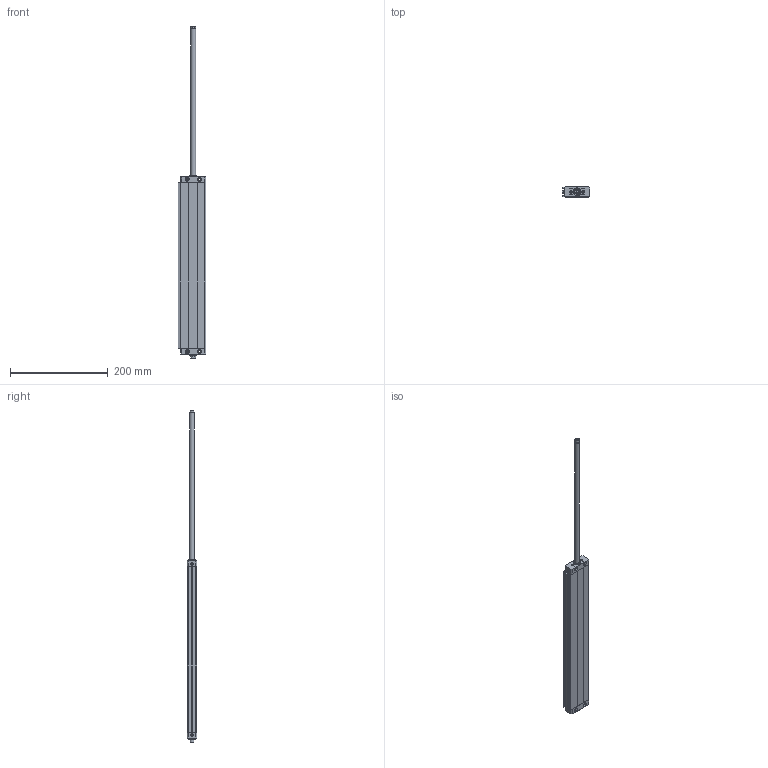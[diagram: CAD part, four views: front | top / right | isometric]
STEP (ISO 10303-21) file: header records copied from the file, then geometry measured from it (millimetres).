
FILE_DESCRIPTION((''),'2;1');
FILE_NAME('I:\Area Tecnica\Disegni\VARIE-3D\Componenti\1370 - CPO\1370_##_0000_03\1370_25_0300_03-01.iam.step','2010-12-16T10:53:53',(''),(''),'Autodesk Inventor 2011','Autodesk Inventor 2011','');
FILE_SCHEMA(('AUTOMOTIVE_DESIGN { 1 0 10303 214 1 1 1 1 }'));
Length unit declared in the file: millimetre
Products named in the file (5): 1370_25_0300_03-01; 1370_05_25_0000; 1370_06_25_0300; 1370_08_25_0000; 1370_3_25_0300
Assembly tree (4 placements, depth 2):
  1370_25_0300_03-01
    1370_05_25_0000
    1370_06_25_0300
    1370_08_25_0000
    1370_3_25_0300
Bounding box: 56.25 x 20 x 678 mm (x, y, z)
Volume: 248649.9 mm3; surface area: 127258.8 mm2
Topology: 4 solids, 4 shells, 158 faces, 378 edges, 238 vertices
Faces by surface type: plane 90, cylinder 48, cone 20
Full cylindrical faces by diameter (mm): 4.2 x22, 5.2 x2, 8 x8, 9.5 x2, 10 x4, 16 x2
Entity records: 4480 total; most frequent: DIRECTION 750, CARTESIAN_POINT 695, ORIENTED_EDGE 608, EDGE_CURVE 304, AXIS2_PLACEMENT_3D 279, EDGE_LOOP 250, VERTEX_POINT 224, VECTOR 192
